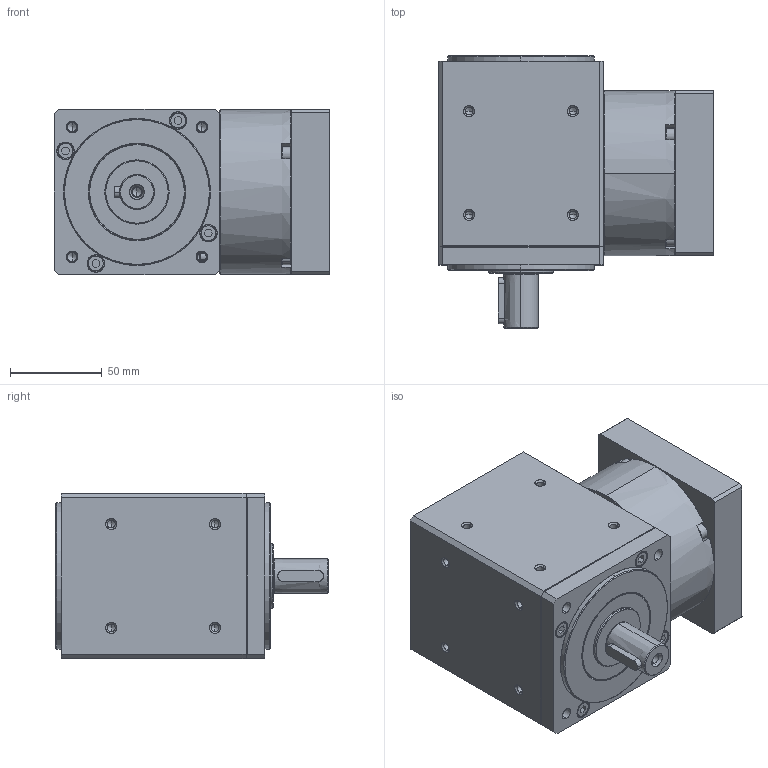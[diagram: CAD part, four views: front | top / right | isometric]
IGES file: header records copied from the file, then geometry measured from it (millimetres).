
Start section: SolidWorks IGES file using analytic representation for surfaces
Global section: file name: C:\Users\render\Documents\CAD Files\Gearboxes\R-Gearboxes\RXAS\RLAS\RLAS-090-XXX\RLAS-090-005.IGS; native system: SolidWorks 2011; preprocessor: SolidWorks 2011; author: render; date: 120529.161459; units: millimetre
Bounding box: 150 x 148.5 x 90 mm (x, y, z)
Surface area: 233837.2 mm2 (no closed solid volume)
Topology: 0 solids, 0 shells, 1282 faces, 21442 edges, 21345 vertices
Faces by surface type: revolution 803, bspline 479
